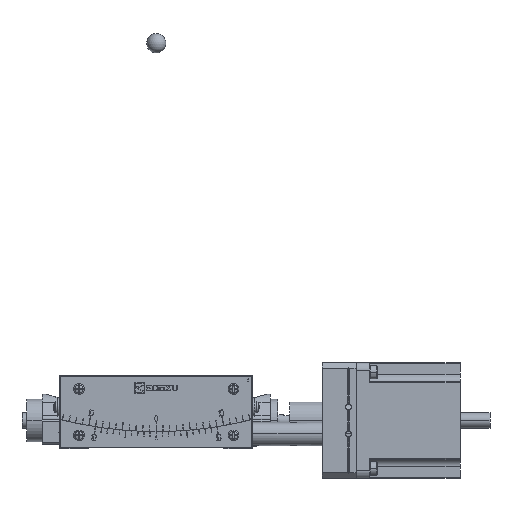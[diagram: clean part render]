
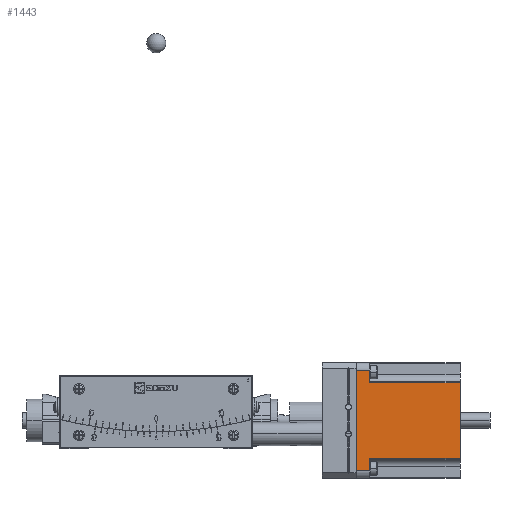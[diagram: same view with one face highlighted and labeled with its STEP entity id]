
A CAD part, front view. The second image highlights one B-rep face of the part: STEP entity #1443.
In plain terms, the highlighted planar face has unit normal (0, -1, 0).
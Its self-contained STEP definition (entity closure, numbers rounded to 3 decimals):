
#1443=ADVANCED_FACE('',(#16873),#16872,.T.);
#16872=PLANE('',#48159);
#16873=FACE_OUTER_BOUND('',#48160,.T.);
#48156=CARTESIAN_POINT('',(98.12,-30.,-16.5));
#48157=DIRECTION('',(0.,-1.,0.));
#48158=DIRECTION('',(1.,0.,0.));
#48159=AXIS2_PLACEMENT_3D('',#48156,#48157,#48158);
#48160=EDGE_LOOP('',(#69255,#69256,#69257,#69258,#69259,#69260,#69261,#69262,#69263,#69264,#69265,#69266));
#69255=ORIENTED_EDGE('',*,*,#84127,.T.);
#69256=ORIENTED_EDGE('',*,*,#84128,.T.);
#69257=ORIENTED_EDGE('',*,*,#84129,.T.);
#69258=ORIENTED_EDGE('',*,*,#84066,.T.);
#69259=ORIENTED_EDGE('',*,*,#84130,.T.);
#69260=ORIENTED_EDGE('',*,*,#84070,.T.);
#69261=ORIENTED_EDGE('',*,*,#84131,.T.);
#69262=ORIENTED_EDGE('',*,*,#84132,.T.);
#69263=ORIENTED_EDGE('',*,*,#84133,.F.);
#69264=ORIENTED_EDGE('',*,*,#84134,.T.);
#69265=ORIENTED_EDGE('',*,*,#84135,.T.);
#69266=ORIENTED_EDGE('',*,*,#84136,.T.);
#84066=EDGE_CURVE('',#111665,#111658,#111666,.T.);
#84070=EDGE_CURVE('',#111692,#111693,#111694,.T.);
#84127=EDGE_CURVE('',#112087,#112088,#112089,.T.);
#84128=EDGE_CURVE('',#112088,#112095,#112096,.T.);
#84129=EDGE_CURVE('',#112095,#111665,#112102,.T.);
#84130=EDGE_CURVE('',#111658,#111692,#112108,.T.);
#84131=EDGE_CURVE('',#111693,#112114,#112115,.T.);
#84132=EDGE_CURVE('',#112114,#112121,#112122,.T.);
#84133=EDGE_CURVE('',#112128,#112121,#112129,.T.);
#84134=EDGE_CURVE('',#112128,#112135,#112136,.T.);
#84135=EDGE_CURVE('',#112135,#112142,#112143,.T.);
#84136=EDGE_CURVE('',#112142,#112087,#112149,.T.);
#111658=VERTEX_POINT('',#163177);
#111665=VERTEX_POINT('',#163182);
#111666=LINE('',#163183,#163184);
#111692=VERTEX_POINT('',#163198);
#111693=VERTEX_POINT('',#163199);
#111694=LINE('',#163200,#163201);
#112087=VERTEX_POINT('',#163443);
#112088=VERTEX_POINT('',#163444);
#112089=LINE('',#163445,#163446);
#112095=VERTEX_POINT('',#163448);
#112096=LINE('',#163449,#163450);
#112102=LINE('',#163452,#163453);
#112108=LINE('',#163455,#163456);
#112114=VERTEX_POINT('',#163458);
#112115=LINE('',#163459,#163460);
#112121=VERTEX_POINT('',#163462);
#112122=LINE('',#163463,#163464);
#112128=VERTEX_POINT('',#163466);
#112129=LINE('',#163467,#163468);
#112135=VERTEX_POINT('',#163470);
#112136=LINE('',#163471,#163472);
#112142=VERTEX_POINT('',#163474);
#112143=LINE('',#163475,#163476);
#112149=LINE('',#163478,#163479);
#163177=CARTESIAN_POINT('',(103.5,-30.,17.492));
#163182=CARTESIAN_POINT('',(103.5,-30.,30.908));
#163183=CARTESIAN_POINT('',(103.5,-30.,30.908));
#163184=VECTOR('',#163185,13.416);
#163185=DIRECTION('',(0.,0.,-1.));
#163198=CARTESIAN_POINT('',(103.5,-30.,12.31));
#163199=CARTESIAN_POINT('',(103.5,-30.,3.09));
#163200=CARTESIAN_POINT('',(103.5,-30.,12.31));
#163201=VECTOR('',#163202,9.22);
#163202=DIRECTION('',(0.,0.,-1.));
#163443=CARTESIAN_POINT('',(110.5,-30.,34.2));
#163444=CARTESIAN_POINT('',(110.5,-30.,40.7));
#163445=CARTESIAN_POINT('',(110.5,-30.,34.2));
#163446=VECTOR('',#163447,6.5);
#163447=DIRECTION('',(0.,0.,1.));
#163448=CARTESIAN_POINT('',(103.5,-30.,40.7));
#163449=CARTESIAN_POINT('',(110.5,-30.,40.7));
#163450=VECTOR('',#163451,7.);
#163451=DIRECTION('',(-1.,0.,0.));
#163452=CARTESIAN_POINT('',(103.5,-30.,40.7));
#163453=VECTOR('',#163454,9.792);
#163454=DIRECTION('',(0.,0.,-1.));
#163455=CARTESIAN_POINT('',(103.5,-30.,17.492));
#163456=VECTOR('',#163457,5.182);
#163457=DIRECTION('',(0.,0.,-1.));
#163458=CARTESIAN_POINT('',(103.5,-30.,-11.3));
#163459=CARTESIAN_POINT('',(103.5,-30.,3.09));
#163460=VECTOR('',#163461,14.39);
#163461=DIRECTION('',(0.,0.,-1.));
#163462=CARTESIAN_POINT('',(110.5,-30.,-11.3));
#163463=CARTESIAN_POINT('',(103.5,-30.,-11.3));
#163464=VECTOR('',#163465,7.);
#163465=DIRECTION('',(1.,0.,0.));
#163466=CARTESIAN_POINT('',(110.5,-30.,-4.8));
#163467=CARTESIAN_POINT('',(110.5,-30.,-4.8));
#163468=VECTOR('',#163469,6.5);
#163469=DIRECTION('',(0.,0.,-1.));
#163470=CARTESIAN_POINT('',(157.3,-30.,-4.8));
#163471=CARTESIAN_POINT('',(110.5,-30.,-4.8));
#163472=VECTOR('',#163473,46.8);
#163473=DIRECTION('',(1.,0.,0.));
#163474=CARTESIAN_POINT('',(157.3,-30.,34.2));
#163475=CARTESIAN_POINT('',(157.3,-30.,-4.8));
#163476=VECTOR('',#163477,39.);
#163477=DIRECTION('',(0.,0.,1.));
#163478=CARTESIAN_POINT('',(157.3,-30.,34.2));
#163479=VECTOR('',#163480,46.8);
#163480=DIRECTION('',(-1.,0.,0.));
